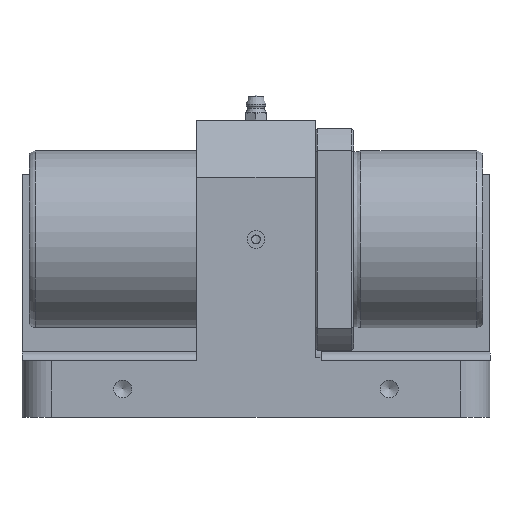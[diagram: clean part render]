
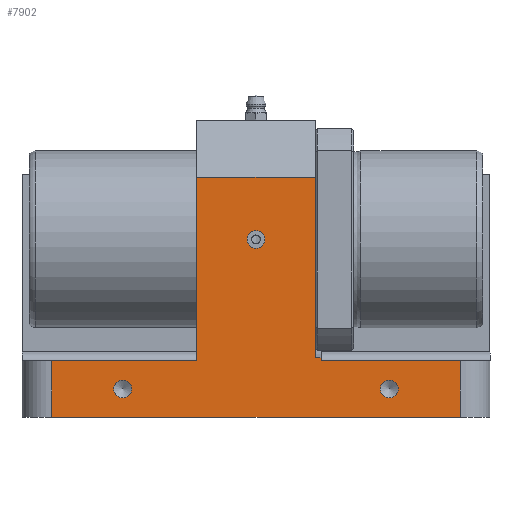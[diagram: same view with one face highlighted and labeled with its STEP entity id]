
A CAD part, front view. The second image highlights one B-rep face of the part: STEP entity #7902.
In plain terms, the highlighted planar face has unit normal (0, -1, 0).
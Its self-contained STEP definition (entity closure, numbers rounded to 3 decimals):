
#7756=CARTESIAN_POINT('',(148.0,-110.0,19.));
#7757=VERTEX_POINT('',#7756);
#7765=CARTESIAN_POINT('',(148.0,-110.0,0.0));
#7766=VERTEX_POINT('',#7765);
#7767=CARTESIAN_POINT('',(148.0,-110.0,19.));
#7768=DIRECTION('',(0.0,0.0,-1.0));
#7769=VECTOR('',#7768,19.);
#7770=LINE('',#7767,#7769);
#7771=EDGE_CURVE('',#7757,#7766,#7770,.T.);
#7791=CARTESIAN_POINT('',(158.0,-110.0,0.0));
#7792=DIRECTION('',(0.0,-1.0,0.0));
#7793=DIRECTION('',(0.0,0.0,-1.0));
#7794=AXIS2_PLACEMENT_3D('',#7791,#7792,#7793);
#7795=PLANE('',#7794);
#7796=ORIENTED_EDGE('',*,*,#7771,.F.);
#7797=CARTESIAN_POINT('',(101.,-110.0,19.));
#7798=VERTEX_POINT('',#7797);
#7799=CARTESIAN_POINT('',(148.0,-110.0,19.));
#7800=DIRECTION('',(-1.0,0.0,0.0));
#7801=VECTOR('',#7800,47.);
#7802=LINE('',#7799,#7801);
#7803=EDGE_CURVE('',#7757,#7798,#7802,.T.);
#7804=ORIENTED_EDGE('',*,*,#7803,.T.);
#7805=CARTESIAN_POINT('',(101.,-110.0,20.));
#7806=VERTEX_POINT('',#7805);
#7807=CARTESIAN_POINT('',(101.,-110.0,19.));
#7808=DIRECTION('',(0.0,0.0,1.0));
#7809=VECTOR('',#7808,1.);
#7810=LINE('',#7807,#7809);
#7811=EDGE_CURVE('',#7798,#7806,#7810,.T.);
#7812=ORIENTED_EDGE('',*,*,#7811,.T.);
#7813=CARTESIAN_POINT('',(99.0,-110.0,20.));
#7814=VERTEX_POINT('',#7813);
#7815=CARTESIAN_POINT('',(99.0,-110.0,20.));
#7816=DIRECTION('',(1.0,0.0,0.0));
#7817=VECTOR('',#7816,2.);
#7818=LINE('',#7815,#7817);
#7819=EDGE_CURVE('',#7814,#7806,#7818,.T.);
#7820=ORIENTED_EDGE('',*,*,#7819,.F.);
#7821=CARTESIAN_POINT('',(99.,-110.0,81.0));
#7822=VERTEX_POINT('',#7821);
#7823=CARTESIAN_POINT('',(99.0,-110.0,20.));
#7824=DIRECTION('',(0.0,0.0,1.0));
#7825=VECTOR('',#7824,61.);
#7826=LINE('',#7823,#7825);
#7827=EDGE_CURVE('',#7814,#7822,#7826,.T.);
#7828=ORIENTED_EDGE('',*,*,#7827,.T.);
#7829=CARTESIAN_POINT('',(59.,-110.0,81.0));
#7830=VERTEX_POINT('',#7829);
#7831=CARTESIAN_POINT('',(59.,-110.0,81.0));
#7832=DIRECTION('',(1.0,0.0,0.0));
#7833=VECTOR('',#7832,40.);
#7834=LINE('',#7831,#7833);
#7835=EDGE_CURVE('',#7830,#7822,#7834,.T.);
#7836=ORIENTED_EDGE('',*,*,#7835,.F.);
#7837=CARTESIAN_POINT('',(59.,-110.0,19.));
#7838=VERTEX_POINT('',#7837);
#7839=CARTESIAN_POINT('',(59.,-110.0,81.0));
#7840=DIRECTION('',(0.0,0.0,-1.0));
#7841=VECTOR('',#7840,62.0);
#7842=LINE('',#7839,#7841);
#7843=EDGE_CURVE('',#7830,#7838,#7842,.T.);
#7844=ORIENTED_EDGE('',*,*,#7843,.T.);
#7845=CARTESIAN_POINT('',(10.0,-110.0,19.));
#7846=VERTEX_POINT('',#7845);
#7847=CARTESIAN_POINT('',(59.,-110.0,19.));
#7848=DIRECTION('',(-1.0,0.0,0.0));
#7849=VECTOR('',#7848,49.);
#7850=LINE('',#7847,#7849);
#7851=EDGE_CURVE('',#7838,#7846,#7850,.T.);
#7852=ORIENTED_EDGE('',*,*,#7851,.T.);
#7853=CARTESIAN_POINT('',(10.0,-110.0,0.0));
#7854=VERTEX_POINT('',#7853);
#7855=CARTESIAN_POINT('',(10.0,-110.0,0.0));
#7856=DIRECTION('',(0.0,0.0,1.0));
#7857=VECTOR('',#7856,19.);
#7858=LINE('',#7855,#7857);
#7859=EDGE_CURVE('',#7854,#7846,#7858,.T.);
#7860=ORIENTED_EDGE('',*,*,#7859,.F.);
#7861=CARTESIAN_POINT('',(10.0,-110.0,0.0));
#7862=DIRECTION('',(1.0,0.0,0.0));
#7863=VECTOR('',#7862,138.0);
#7864=LINE('',#7861,#7863);
#7865=EDGE_CURVE('',#7854,#7766,#7864,.T.);
#7866=ORIENTED_EDGE('',*,*,#7865,.T.);
#7867=EDGE_LOOP('',(#7796,#7804,#7812,#7820,#7828,#7836,#7844,#7852,#7860,#7866));
#7868=FACE_OUTER_BOUND('',#7867,.T.);
#7869=CARTESIAN_POINT('',(127.,-110.0,9.5));
#7870=VERTEX_POINT('',#7869);
#7871=CARTESIAN_POINT('',(124.,-110.0,9.5));
#7872=DIRECTION('',(0.0,1.0,0.0));
#7873=DIRECTION('',(1.0,0.0,0.0));
#7874=AXIS2_PLACEMENT_3D('',#7871,#7872,#7873);
#7875=CIRCLE('',#7874,3.);
#7876=EDGE_CURVE('',#7870,#7870,#7875,.T.);
#7877=ORIENTED_EDGE('',*,*,#7876,.T.);
#7878=EDGE_LOOP('',(#7877));
#7879=FACE_BOUND('',#7878,.T.);
#7880=CARTESIAN_POINT('',(37.0,-110.0,9.5));
#7881=VERTEX_POINT('',#7880);
#7882=CARTESIAN_POINT('',(34.0,-110.0,9.5));
#7883=DIRECTION('',(0.0,1.0,0.0));
#7884=DIRECTION('',(1.0,0.0,0.0));
#7885=AXIS2_PLACEMENT_3D('',#7882,#7883,#7884);
#7886=CIRCLE('',#7885,3.);
#7887=EDGE_CURVE('',#7881,#7881,#7886,.T.);
#7888=ORIENTED_EDGE('',*,*,#7887,.T.);
#7889=EDGE_LOOP('',(#7888));
#7890=FACE_BOUND('',#7889,.T.);
#7891=CARTESIAN_POINT('',(82.,-110.0,60.));
#7892=VERTEX_POINT('',#7891);
#7893=CARTESIAN_POINT('',(79.,-110.0,60.));
#7894=DIRECTION('',(0.0,1.0,0.0));
#7895=DIRECTION('',(1.0,0.0,0.0));
#7896=AXIS2_PLACEMENT_3D('',#7893,#7894,#7895);
#7897=CIRCLE('',#7896,3.);
#7898=EDGE_CURVE('',#7892,#7892,#7897,.T.);
#7899=ORIENTED_EDGE('',*,*,#7898,.T.);
#7900=EDGE_LOOP('',(#7899));
#7901=FACE_BOUND('',#7900,.T.);
#7902=ADVANCED_FACE('',(#7868,#7879,#7890,#7901),#7795,.T.);
